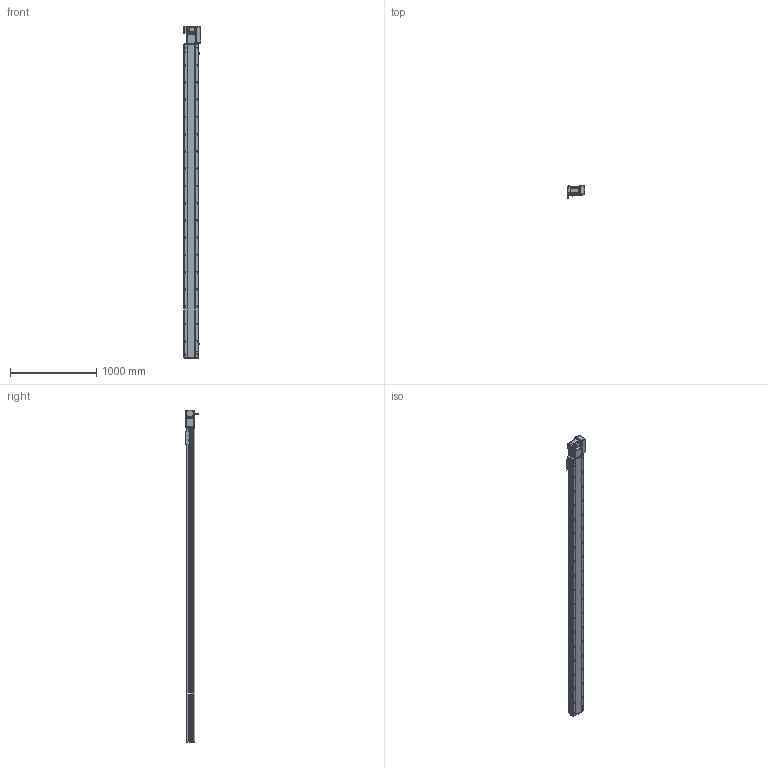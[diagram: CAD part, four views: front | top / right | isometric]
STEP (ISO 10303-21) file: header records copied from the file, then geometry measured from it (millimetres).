
FILE_DESCRIPTION (( 'STEP AP214' ), '1' );
FILE_NAME ('RTB17S-XX-3350-R-M75-C4.STEP', '2025-12-12T01:52:50', ( '' ), ( '' ), 'SwSTEP 2.0', 'SolidWorks 2018', '' );
FILE_SCHEMA (( 'AUTOMOTIVE_DESIGN' ));
Length unit declared in the file: millimetre
Products named in the file (15): RTB17S-賑釱^RTB17S-XX-XX-R-M75-C4; RTB17S-XX-3350-R-M75-C4; RTB22S-GY-005P^RTB17S-R-々湍釱蚾饜-750W_RTB17S-XX-XX-R-M75-C4; 750W萇儂^RTB17S-XX-XX-R-M75-C4; RTB17S-L-001-耜醱啣^RTB17S-XX-XX-R-M75-C4; RTB17S-L-007奻裔^RTB17S-XX-XX-R-M75-C4; RTB22S-GY-018P^RTB17S-R-々湍釱蚾饜-750W_RTB17S-XX-XX-R-M75-C4; RTB17S-L-004-賑釱^RTB17S-賑釱_RTB17S-XX-XX-R-M75-C4; RTB22S-GY-017P^RTB17S-R-々湍釱蚾饜-750W_RTB17S-XX-XX-R-M75-C4; RTB17-R-011菁釱^RTB17S-XX-XX-R-M75-C4; RTH13-BL-012覜茼え俋离^RTB17S-賑釱_RTB17S-XX-XX-R-M75-C4; RTB17S-L-014-T20-P75--々湍釱^RTB17S-R-々湍釱蚾饜-750W_RTB17S-XX-XX-R-M75-C4; RTB17S-R-々湍釱蚾饜-750W^RTB17S-XX-XX-R-M75-C4; RTB22S-GY-008-M75--萇儂啣^RTB17S-R-々湍釱蚾饜-750W_RTB17S-XX-XX-R-M75-C4; EE672^RTB17S-XX-XX-R-M75-C4
Assembly tree (17 placements, depth 3):
  RTB17S-XX-3350-R-M75-C4
    RTB17-R-011菁釱^RTB17S-XX-XX-R-M75-C4
    EE672^RTB17S-XX-XX-R-M75-C4  x3
    RTB17S-L-001-耜醱啣^RTB17S-XX-XX-R-M75-C4
    RTB17S-賑釱^RTB17S-XX-XX-R-M75-C4
      RTB17S-L-004-賑釱^RTB17S-賑釱_RTB17S-XX-XX-R-M75-C4
      RTH13-BL-012覜茼え俋离^RTB17S-賑釱_RTB17S-XX-XX-R-M75-C4
    RTB17S-L-007奻裔^RTB17S-XX-XX-R-M75-C4
    750W萇儂^RTB17S-XX-XX-R-M75-C4
    RTB17S-R-々湍釱蚾饜-750W^RTB17S-XX-XX-R-M75-C4
      RTB17S-L-014-T20-P75--々湍釱^RTB17S-R-々湍釱蚾饜-750W_RTB17S-XX-XX-R-M75-C4
      RTB22S-GY-005P^RTB17S-R-々湍釱蚾饜-750W_RTB17S-XX-XX-R-M75-C4
      RTB22S-GY-017P^RTB17S-R-々湍釱蚾饜-750W_RTB17S-XX-XX-R-M75-C4  x2
      RTB22S-GY-008-M75--萇儂啣^RTB17S-R-々湍釱蚾饜-750W_RTB17S-XX-XX-R-M75-C4
      RTB22S-GY-018P^RTB17S-R-々湍釱蚾饜-750W_RTB17S-XX-XX-R-M75-C4
Bounding box: 207.4 x 152.7 x 3849 mm (x, y, z)
Volume: 26891362.4 mm3; surface area: 4957492.7 mm2
Topology: 17 solids, 17 shells, 2281 faces, 6430 edges, 4166 vertices
Faces by surface type: plane 994, cylinder 871, bspline 294, cone 110, sphere 8, torus 4
Entity records: 67318 total; most frequent: CARTESIAN_POINT 20094, ORIENTED_EDGE 9704, DIRECTION 8942, EDGE_CURVE 4852, AXIS2_PLACEMENT_3D 3186, VERTEX_POINT 3170, VECTOR 2570, LINE 2570
